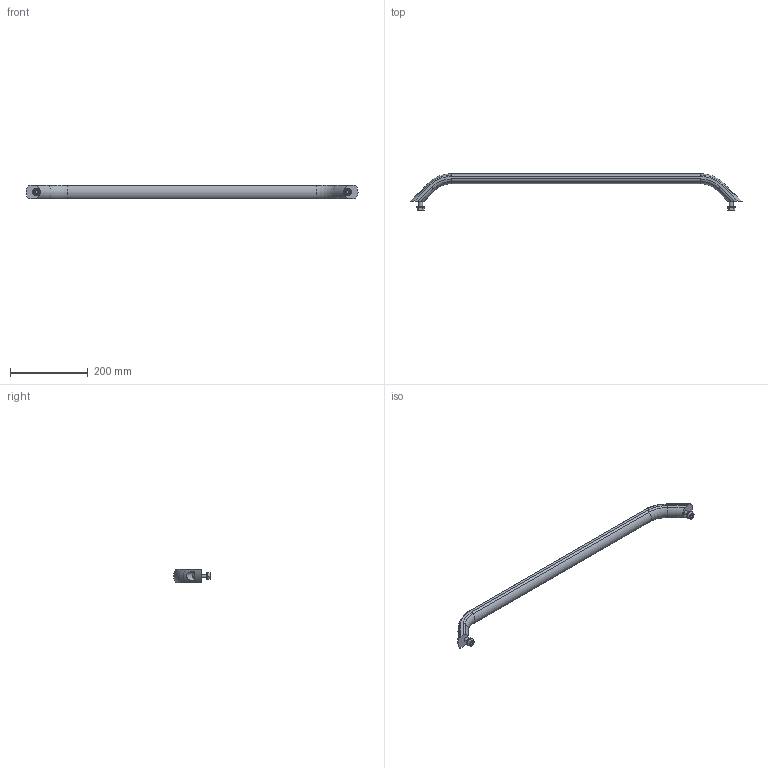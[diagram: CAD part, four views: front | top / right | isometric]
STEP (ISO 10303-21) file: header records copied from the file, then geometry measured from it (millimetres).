
FILE_DESCRIPTION( ( 'STEP AP203' ), '1' );
FILE_NAME( 'C:/Temp/Ganter_Step_05_03_2020/data/1_2/gn_428/gn_428_b/Cabinet U-handle GN 428-AL-36-800-B-SW.stp', '2020-03-05T10:11:42', ( 'License CC BY-ND 4.0' ), ( 'CADENAS' ), ' ', 'PARTsolutions', ' ' );
FILE_SCHEMA( ( 'CONFIG_CONTROL_DESIGN' ) );
Length unit declared in the file: millimetre
Products named in the file (1): _Cabinet U-handle GN 428-AL-36-800-B-SW
Bounding box: 854.73 x 94.31 x 36 mm (x, y, z)
Volume: 662990.5 mm3; surface area: 96640.6 mm2
Topology: 1 solids, 1 shells, 124 faces, 268 edges, 164 vertices
Faces by surface type: plane 50, cylinder 30, cone 30, torus 12, bspline 2
Full cylindrical faces by diameter (mm): 10 x2, 10.5 x2, 11 x2, 17.5 x2, 20 x2
Entity records: 3610 total; most frequent: CARTESIAN_POINT 967, DIRECTION 554, ORIENTED_EDGE 496, EDGE_CURVE 248, AXIS2_PLACEMENT_3D 233, VERTEX_POINT 162, EDGE_LOOP 160, FACE_OUTER_BOUND 136
